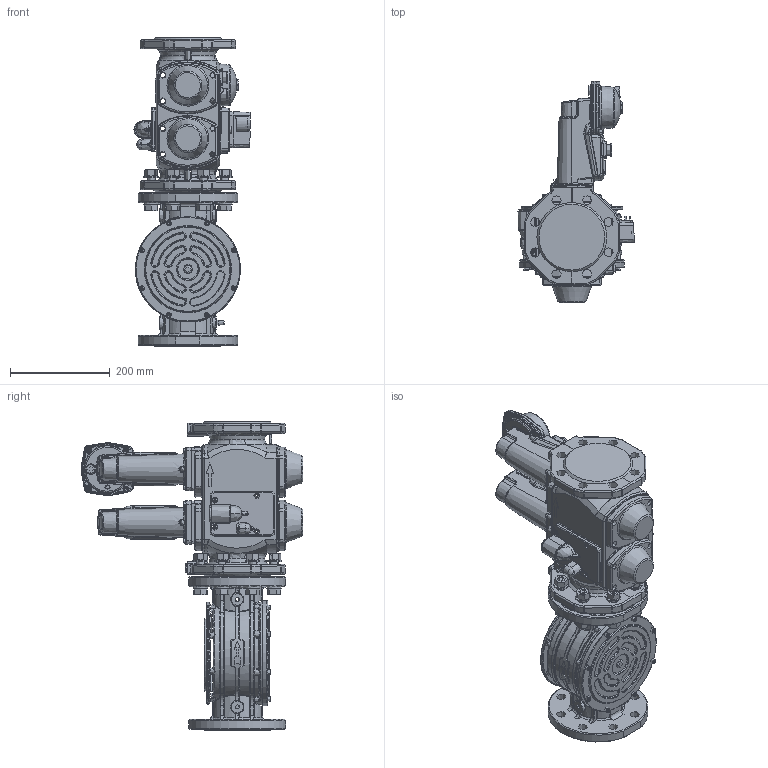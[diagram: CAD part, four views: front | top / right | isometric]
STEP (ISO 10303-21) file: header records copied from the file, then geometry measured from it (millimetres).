
FILE_DESCRIPTION (( 'STEP AP203' ), '1' );
FILE_NAME ('19990589-103349.STEP', '2016-11-18T15:22:38', ( '' ), ( '' ), 'SwSTEP 2.0', 'SolidWorks 2016', '' );
FILE_SCHEMA (( 'CONFIG_CONTROL_DESIGN' ));
Products named in the file (1): 19990589-103349
Bounding box: 233 x 444.8 x 620 mm (x, y, z)
Surface area: 915767.8 mm2 (no closed solid volume)
Topology: 0 solids, 161 shells, 3850 faces, 12076 edges, 8011 vertices
Faces by surface type: bspline 1427, cylinder 1010, plane 910, torus 295, cone 184, sphere 24
Full cylindrical faces by diameter (mm): 1.5 x2, 3 x1, 4.3 x6, 5 x1, 6.4 x4, 8 x1, 8.5 x5, 9 x10, 10 x8, 11.55 x1, 11.8 x1, 14 x3, 15 x1, 16 x8, 18 x10, 18.5 x2, 19 x10, 22.5 x4, 24.5 x4, 26 x5, 30 x16, 32 x1, 32.2 x1, 36.15 x1, 85 x1, 119.1 x1, 204 x1, 211 x1
Entity records: 229178 total; most frequent: CARTESIAN_POINT 140521, ORIENTED_EDGE 18841, DIRECTION 14844, EDGE_CURVE 11518, VERTEX_POINT 7833, AXIS2_PLACEMENT_3D 5753, EDGE_LOOP 4473, B_SPLINE_CURVE_WITH_KNOTS 4380
